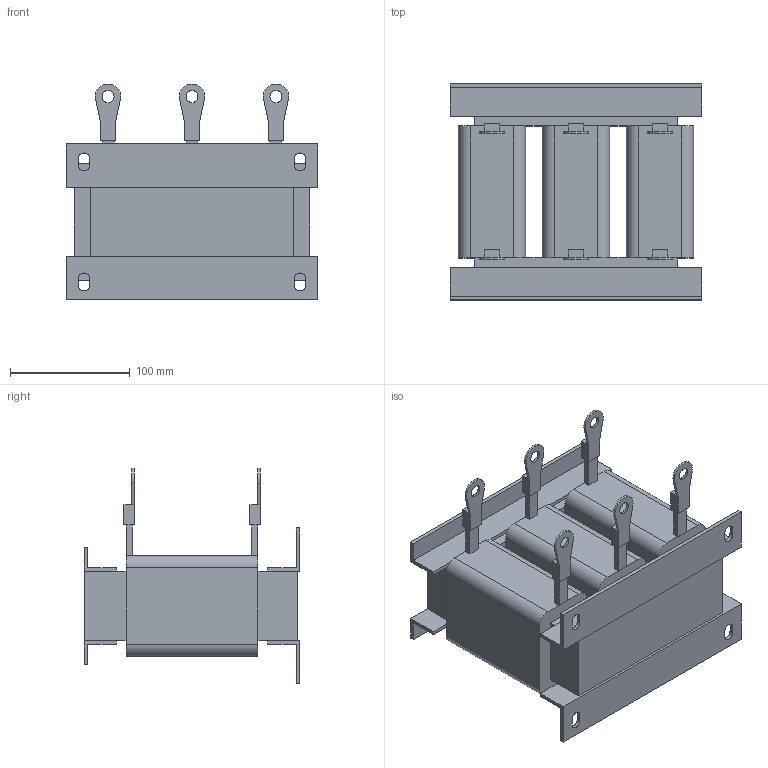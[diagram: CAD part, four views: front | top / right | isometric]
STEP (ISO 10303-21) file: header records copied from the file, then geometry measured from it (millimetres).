
FILE_DESCRIPTION(/* description */ (''),/* implementation_level */ '2;1');
FILE_NAME(/* name */ 'ACO-C-0052-T6.stp',/* time_stamp */ '2025-01-15T07:45:35+04:00',/* author */ ('Александр (огранич)'),/* organization */ (''),/* preprocessor_version */ 'ST-DEVELOPER v19.2',/* originating_system */ 'Autodesk Inventor 2024',/* authorisation */ '');
FILE_SCHEMA (('AUTOMOTIVE_DESIGN { 1 0 10303 214 3 1 1 }'));
Length unit declared in the file: millimetre
Products named in the file (1): ACO-0015-T4-4
Bounding box: 210 x 180 x 179.96 mm (x, y, z)
Volume: 2348289.6 mm3; surface area: 245413.9 mm2
Topology: 15 solids, 15 shells, 196 faces, 478 edges, 308 vertices
Faces by surface type: plane 164, cylinder 32
Full cylindrical faces by diameter (mm): 10 x6
Entity records: 5727 total; most frequent: CARTESIAN_POINT 983, ORIENTED_EDGE 956, DIRECTION 936, EDGE_CURVE 478, LINE 414, VECTOR 414, VERTEX_POINT 308, AXIS2_PLACEMENT_3D 261
